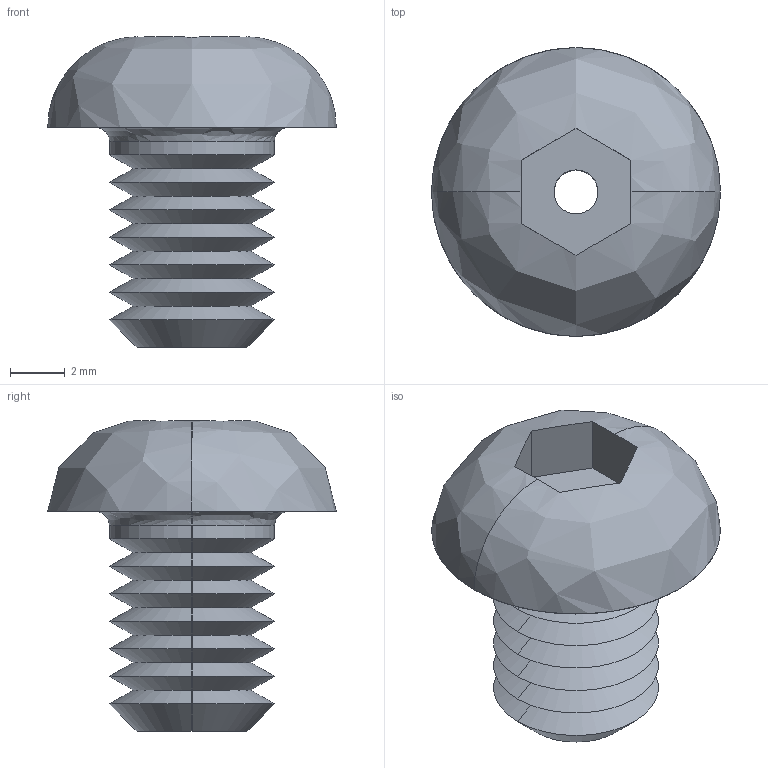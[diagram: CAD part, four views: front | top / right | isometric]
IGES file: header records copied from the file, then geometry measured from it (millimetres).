
Start section: SolidWorks IGES file using analytic representation for surfaces
Global section: file name: C:\Users\liam_\OneDrive\Documents\WORK\Work for WixRoyd\Job Files\J-00019 - Matt Davis CAD Checking\04. CAD Drawings\automotion20190605\P0094_v2\P0094_v2_20190712_IGES\P0094.060-008-A2.igs; native system: SolidWorks 2017; preprocessor: SolidWorks 2017; author: liam_; date: 190712.175443; units: millimetre
Bounding box: 10.5 x 10.5 x 11.3 mm (x, y, z)
Surface area: 516.5 mm2 (no closed solid volume)
Topology: 0 solids, 0 shells, 43 faces, 334 edges, 334 vertices
Faces by surface type: revolution 30, bspline 13
